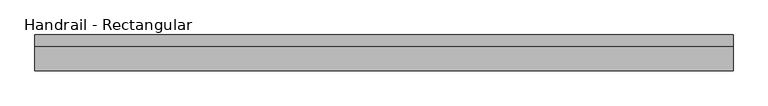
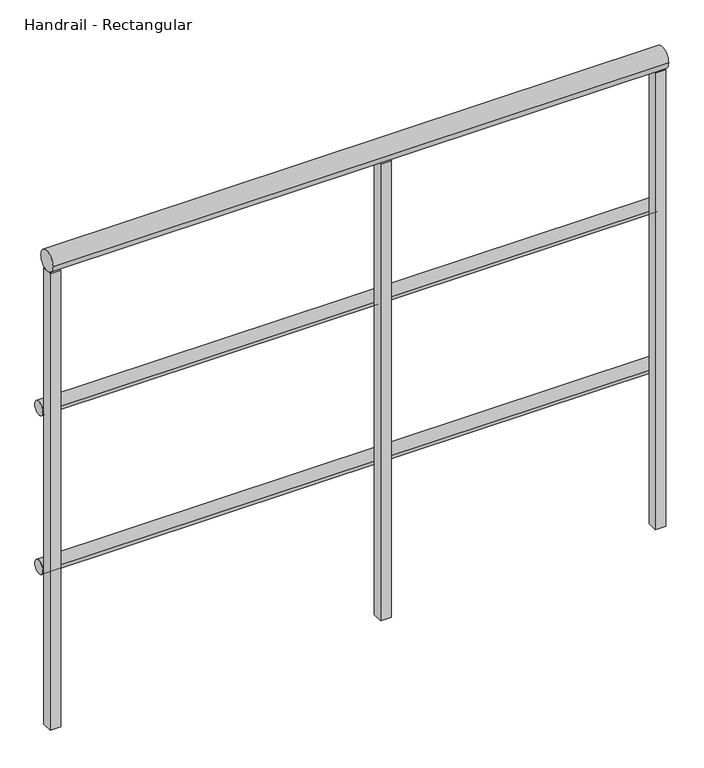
"""IFC4 building model written with IfcOpenShell, lengths in millimetres: railing geometry, Handrail - Rectangular."""

from ifc_helpers import new_model, si_unit, point, frame, frame_2d, origin, place, context, project, spatial, polyline, circle_curve, trimmed, segment, composite_curve, outline, extrude, source, transform, mapped, element, save


def handrail_rectangular_5028e874(model_context):
    return source(origin(), model_context, "Body", "SweptSolid", [
        extrude(outline(composite_curve([segment(trimmed(circle_curve(frame_2d((-27958.5683133, 3644.9)), 12.7), [point((-27945.8683133, 3644.9))], [point((-27971.2683133, 3644.9))], False, "CARTESIAN"), True, "CONTINUOUS"), segment(trimmed(circle_curve(frame_2d((-27958.5683133, 3644.9)), 12.7), [point((-27971.2683133, 3644.9))], [point((-27945.8683133, 3644.9))], False, "CARTESIAN"), True, "CONTINUOUS")], self_intersect=False)), frame((-31964.2839563, 0.0, 0.0), z_axis=(1.0, 0.0, 0.0), x_axis=(0.0, 1.0, 0.0)), (0.0, 0.0, 1.0), 1117.6),
        extrude(outline(composite_curve([segment(trimmed(circle_curve(frame_2d((-27958.5683133, 3340.1)), 12.7), [point((-27945.8683133, 3340.1))], [point((-27971.2683133, 3340.1))], False, "CARTESIAN"), True, "CONTINUOUS"), segment(trimmed(circle_curve(frame_2d((-27958.5683133, 3340.1)), 12.7), [point((-27971.2683133, 3340.1))], [point((-27945.8683133, 3340.1))], False, "CARTESIAN"), True, "CONTINUOUS")], self_intersect=False)), frame((-31964.2839563, 0.0, 0.0), z_axis=(1.0, 0.0, 0.0), x_axis=(0.0, 1.0, 0.0)), (0.0, 0.0, 1.0), 1117.6),
        extrude(outline(composite_curve([segment(trimmed(circle_curve(frame_2d((-27983.9683133, 3943.35)), 19.05), [point((-27964.9183133, 3943.35))], [point((-28003.0183133, 3943.35))], False, "CARTESIAN"), True, "CONTINUOUS"), segment(trimmed(circle_curve(frame_2d((-27983.9683133, 3943.35)), 19.05), [point((-28003.0183133, 3943.35))], [point((-27964.9183133, 3943.35))], False, "CARTESIAN"), True, "CONTINUOUS")], self_intersect=False)), frame((-31964.2839563, 0.0, 0.0), z_axis=(1.0, 0.0, 0.0), x_axis=(0.0, 1.0, 0.0)), (0.0, 0.0, 1.0), 1117.6),
        extrude(outline(polyline([(-31364.2089563, -27993.4933133), (-31364.2089563, -27974.4433133), (-31345.1589563, -27974.4433133), (-31345.1589563, -27993.4933133), (-31364.2089563, -27993.4933133)])), frame((0.0, 0.0, 3048.0), z_axis=(0.0, 0.0, 1.0), x_axis=(1.0, 0.0, 0.0)), (0.0, 0.0, 1.0), 876.3),
        extrude(outline(polyline([(-30865.7339563, -27993.4933133), (-30865.7339563, -27974.4433133), (-30846.6839563, -27974.4433133), (-30846.6839563, -27993.4933133), (-30865.7339563, -27993.4933133)])), frame((0.0, 0.0, 3048.0), z_axis=(0.0, 0.0, 1.0), x_axis=(1.0, 0.0, 0.0)), (0.0, 0.0, 1.0), 876.3),
        extrude(outline(polyline([(-31964.2839563, -27993.4933133), (-31964.2839563, -27974.4433133), (-31945.2339563, -27974.4433133), (-31945.2339563, -27993.4933133), (-31964.2839563, -27993.4933133)])), frame((0.0, 0.0, 3048.0), z_axis=(0.0, 0.0, 1.0), x_axis=(1.0, 0.0, 0.0)), (0.0, 0.0, 1.0), 876.3),
    ])


if __name__ == "__main__":
    model = new_model("IFC4")
    model_context = context("Model", 3, world=origin())
    ifc_project = project(units=[si_unit("LENGTHUNIT", "METRE", prefix="MILLI")], contexts=[model_context])
    site = spatial("IfcSite", under=ifc_project)
    building = spatial("IfcBuilding", under=site)
    placement = place(None, origin())
    handrail_rectangular_shape = handrail_rectangular_5028e874(model_context)
    element("IfcRailing", 1, ObjectType="Handrail - Rectangular", at=placement, inside=building, context=model_context, shape_type="MappedRepresentation", body=[
        mapped(handrail_rectangular_shape, transform((0.0, 0.0, 0.0), x_axis=(1.0, 0.0, 0.0), y_axis=(0.0, 1.0, 0.0), z_axis=(0.0, 0.0, 1.0))),
    ])
    save(model, "model.ifc")
